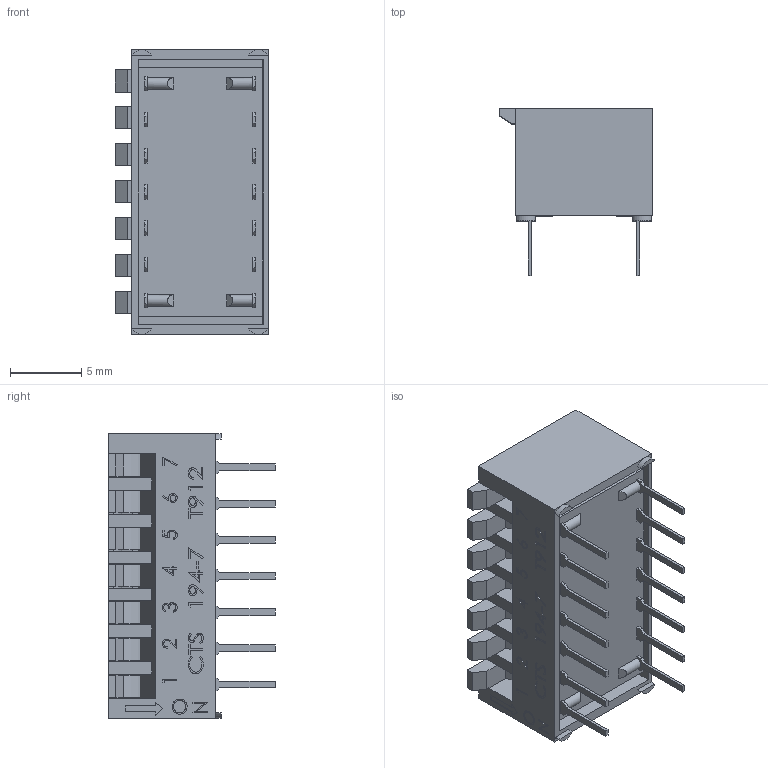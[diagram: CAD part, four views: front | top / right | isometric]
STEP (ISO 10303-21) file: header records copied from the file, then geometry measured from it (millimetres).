
FILE_DESCRIPTION (( 'STEP AP214' ), '1' );
FILE_NAME ('194-7MS.STEP', '2019-05-24T05:54:23', ( '' ), ( '' ), 'SwSTEP 2.0', 'SolidWorks 2019', '' );
FILE_SCHEMA (( 'AUTOMOTIVE_DESIGN' ));
Length unit declared in the file: millimetre
Products named in the file (4): 194-7 pole assembly; 194-7MS; 193-56-001; 194-40-107
Assembly tree (9 placements, depth 2):
  194-7MS
    194-40-107
    193-56-001  x7
    194-7 pole assembly
Bounding box: 10.79 x 11.71 x 19.96 mm (x, y, z)
Volume: 1023.6 mm3; surface area: 2271.5 mm2
Topology: 9 solids, 9 shells, 557 faces, 1523 edges, 1014 vertices
Faces by surface type: plane 421, bspline 93, cylinder 43
Entity records: 23555 total; most frequent: CARTESIAN_POINT 8855, ORIENTED_EDGE 2686, DIRECTION 1999, EDGE_CURVE 1343, LINE 1115, VECTOR 1115, VERTEX_POINT 894, EDGE_LOOP 529
